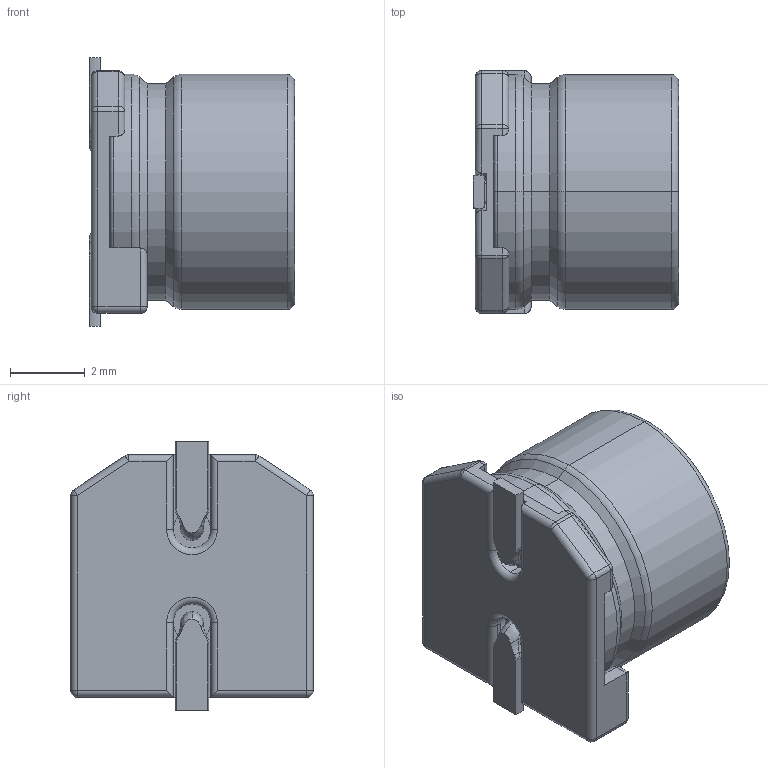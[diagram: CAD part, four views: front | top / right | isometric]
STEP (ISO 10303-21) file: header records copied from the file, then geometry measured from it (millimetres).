
FILE_DESCRIPTION((''),'2;1');
FILE_NAME('LIQUIDSMD63X55_ASM','2020-06-03T',('xy'),(''),'PRO/ENGINEER BY PARAMETRIC TECHNOLOGY CORPORATION, 2009380','PRO/ENGINEER BY PARAMETRIC TECHNOLOGY CORPORATION, 2009380','');
FILE_SCHEMA(('CONFIG_CONTROL_DESIGN'));
Length unit declared in the file: millimetre
Products named in the file (3): LIQUIDSMD63X55; ZB6-3A; LIQUIDSMD63X55_ASM
Assembly tree (2 placements, depth 2):
  LIQUIDSMD63X55_ASM
    LIQUIDSMD63X55
    ZB6-3A
Bounding box: 5.5 x 6.5 x 7.2 mm (x, y, z)
Volume: 172.2 mm3; surface area: 281.3 mm2
Topology: 2 solids, 2 shells, 302 faces, 758 edges, 468 vertices
Faces by surface type: plane 168, cylinder 69, bspline 24, sphere 20, torus 17, cone 4
Entity records: 9985 total; most frequent: CARTESIAN_POINT 2798, ORIENTED_EDGE 1508, DIRECTION 1432, EDGE_CURVE 754, VECTOR 518, LINE 518, VERTEX_POINT 468, AXIS2_PLACEMENT_3D 457
